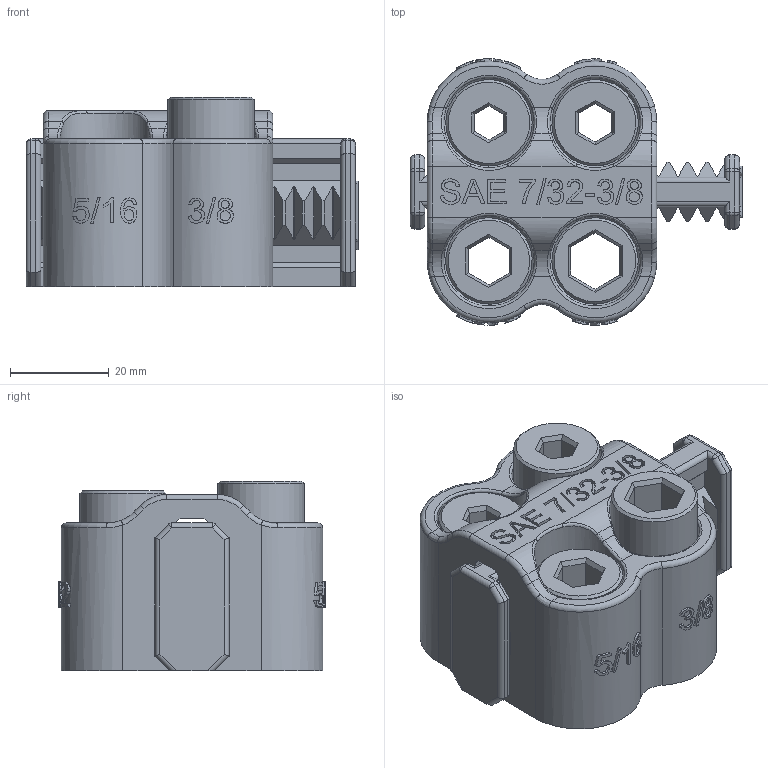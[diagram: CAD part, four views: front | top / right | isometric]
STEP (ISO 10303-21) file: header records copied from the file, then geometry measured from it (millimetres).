
FILE_DESCRIPTION(/* description */ (''),/* implementation_level */ '2;1');
FILE_NAME(/* name */ 'C:/Users/cookn/OneDrive/Documents/Allen Key Holder Files/SAE 732-38.step',/* time_stamp */ '2021-08-23T11:37:04-04:00',/* author */ (''),/* organization */ (''),/* preprocessor_version */ 'ST-DEVELOPER v18.1',/* originating_system */ 'Autodesk Translation Framework v10.9.0.1377',/* authorisation */ '');
FILE_SCHEMA (('AUTOMOTIVE_DESIGN { 1 0 10303 214 3 1 1 }'));
Products named in the file (6): SAE 7/32  - 3/8; Rack 5 v2; Gear 5 v4; Gear 5 v4 (1); Gear 5 v4 (3); Gear 5 v4 (5)
Assembly tree (5 placements, depth 2):
  SAE 7/32  - 3/8
    Rack 5 v2
    Gear 5 v4
    Gear 5 v4 (1)
    Gear 5 v4 (3)
    Gear 5 v4 (5)
Bounding box: 67.28 x 54 x 38.5 mm (x, y, z)
Volume: 65265.7 mm3; surface area: 39236.5 mm2
Topology: 6 solids, 6 shells, 1833 faces, 4644 edges, 2844 vertices
Faces by surface type: bspline 839, plane 738, cylinder 186, cone 40, torus 22, sphere 8
Full cylindrical faces by diameter (mm): 14 x8, 14.8 x8, 17.5 x8, 18.3 x8
Entity records: 277883 total; most frequent: CARTESIAN_POINT 240904, ORIENTED_EDGE 9288, DIRECTION 5132, EDGE_CURVE 4644, VERTEX_POINT 2844, LINE 2354, VECTOR 2354, EDGE_LOOP 1878
